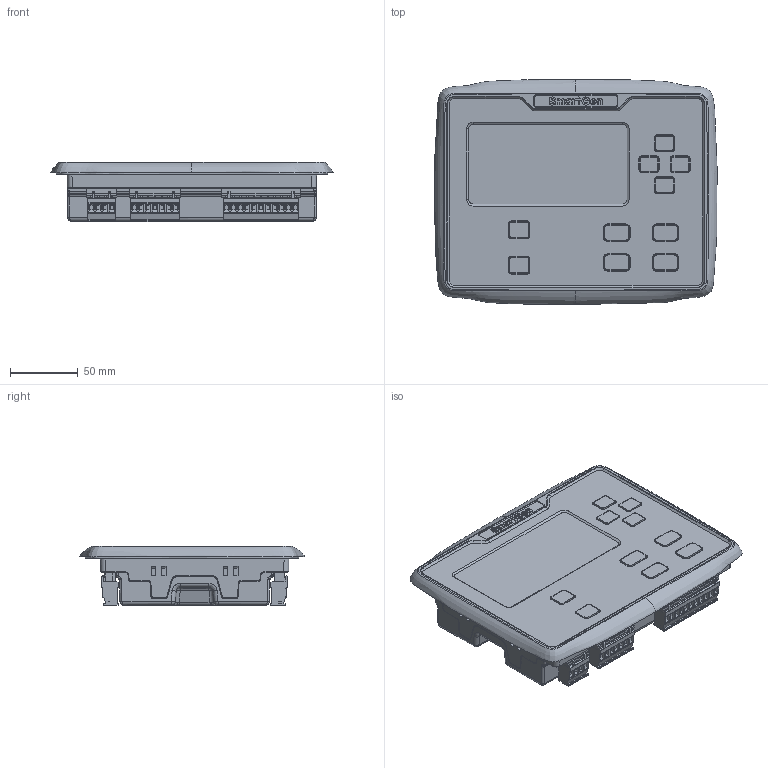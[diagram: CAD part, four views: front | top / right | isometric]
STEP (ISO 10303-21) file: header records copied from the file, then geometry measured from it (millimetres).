
FILE_DESCRIPTION (( 'STEP AP203' ), '1' );
FILE_NAME ('HGM6100Z WZ.STEP', '2024-03-18T00:57:30', ( 'Sky123.Org' ), ( 'Sky123.Org' ), 'SwSTEP 2.0', 'SolidWorks 2018', '' );
FILE_SCHEMA (( 'CONFIG_CONTROL_DESIGN' ));
Products named in the file (1): HGM6100Z WZ
Bounding box: 208.35 x 166.13 x 44.2 mm (x, y, z)
Volume: 1032047 mm3; surface area: 147812.7 mm2
Topology: 16 solids, 17 shells, 5543 faces, 14005 edges, 8921 vertices
Faces by surface type: plane 3968, cylinder 1234, bspline 219, cone 114, torus 4, sphere 4
Entity records: 185570 total; most frequent: CARTESIAN_POINT 51386, ORIENTED_EDGE 27994, DIRECTION 27501, EDGE_CURVE 13997, VECTOR 10171, LINE 10171, VERTEX_POINT 8921, AXIS2_PLACEMENT_3D 8665
